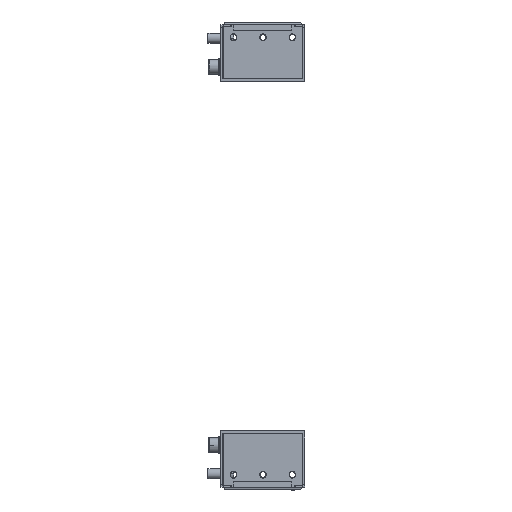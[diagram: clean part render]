
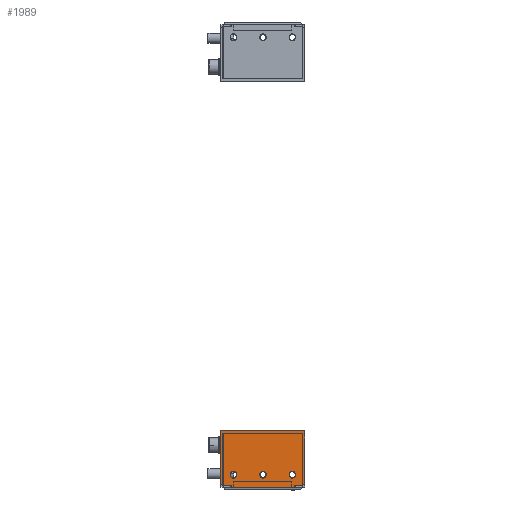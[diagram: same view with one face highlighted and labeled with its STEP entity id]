
A CAD part, left-side view. The second image highlights one B-rep face of the part: STEP entity #1989.
In plain terms, the highlighted planar face has unit normal (-1, 0, 0).
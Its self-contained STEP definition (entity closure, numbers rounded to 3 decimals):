
#292 = VERTEX_POINT('',#293);
#293 = CARTESIAN_POINT('',(-89.5,94.,-64.5));
#299 = EDGE_CURVE('',#292,#300,#302,.T.);
#300 = VERTEX_POINT('',#301);
#301 = CARTESIAN_POINT('',(-89.5,93.9,-64.5));
#302 = LINE('',#303,#304);
#303 = CARTESIAN_POINT('',(-89.5,93.,-64.5));
#304 = VECTOR('',#305,1.);
#305 = DIRECTION('',(0.,-1.,0.));
#324 = VERTEX_POINT('',#325);
#325 = CARTESIAN_POINT('',(-89.5,-0.9,-64.5));
#331 = EDGE_CURVE('',#332,#324,#334,.T.);
#332 = VERTEX_POINT('',#333);
#333 = CARTESIAN_POINT('',(-89.5,-1.,-64.5));
#334 = LINE('',#335,#336);
#335 = CARTESIAN_POINT('',(-89.5,93.,-64.5));
#336 = VECTOR('',#337,1.);
#337 = DIRECTION('',(0.,1.,0.));
#472 = VERTEX_POINT('',#473);
#473 = CARTESIAN_POINT('',(-89.5,-3.5,-67.));
#479 = EDGE_CURVE('',#480,#472,#482,.T.);
#480 = VERTEX_POINT('',#481);
#481 = CARTESIAN_POINT('',(-89.5,96.5,-67.));
#482 = LINE('',#483,#484);
#483 = CARTESIAN_POINT('',(-89.5,93.,-67.));
#484 = VECTOR('',#485,1.);
#485 = DIRECTION('',(-0.,-1.,-0.));
#1425 = VERTEX_POINT('',#1426);
#1426 = CARTESIAN_POINT('',(-89.5,94.,-3.5));
#1443 = VERTEX_POINT('',#1444);
#1444 = CARTESIAN_POINT('',(-89.5,96.5,-3.5));
#1450 = EDGE_CURVE('',#1425,#1443,#1451,.T.);
#1451 = LINE('',#1452,#1453);
#1452 = CARTESIAN_POINT('',(-89.5,94.,-3.5));
#1453 = VECTOR('',#1454,1.);
#1454 = DIRECTION('',(0.,1.,0.));
#1989 = ADVANCED_FACE('',(#1990,#2084,#2095,#2106),#2117,.T.);
#1990 = FACE_BOUND('',#1991,.T.);
#1991 = EDGE_LOOP('',(#1992,#1998,#1999,#2007,#2015,#2021,#2022,#2030,
    #2038,#2046,#2054,#2062,#2070,#2076,#2077,#2083));
#1992 = ORIENTED_EDGE('',*,*,#1993,.T.);
#1993 = EDGE_CURVE('',#1443,#480,#1994,.T.);
#1994 = LINE('',#1995,#1996);
#1995 = CARTESIAN_POINT('',(-89.5,96.5,0.));
#1996 = VECTOR('',#1997,1.);
#1997 = DIRECTION('',(0.,0.,-1.));
#1998 = ORIENTED_EDGE('',*,*,#479,.T.);
#1999 = ORIENTED_EDGE('',*,*,#2000,.T.);
#2000 = EDGE_CURVE('',#472,#2001,#2003,.T.);
#2001 = VERTEX_POINT('',#2002);
#2002 = CARTESIAN_POINT('',(-89.5,-3.5,-3.5));
#2003 = LINE('',#2004,#2005);
#2004 = CARTESIAN_POINT('',(-89.5,-3.5,-63.5));
#2005 = VECTOR('',#2006,1.);
#2006 = DIRECTION('',(0.,0.,1.));
#2007 = ORIENTED_EDGE('',*,*,#2008,.F.);
#2008 = EDGE_CURVE('',#2009,#2001,#2011,.T.);
#2009 = VERTEX_POINT('',#2010);
#2010 = CARTESIAN_POINT('',(-89.5,-1.,-3.5));
#2011 = LINE('',#2012,#2013);
#2012 = CARTESIAN_POINT('',(-89.5,-1.,-3.5));
#2013 = VECTOR('',#2014,1.);
#2014 = DIRECTION('',(0.,-1.,0.));
#2015 = ORIENTED_EDGE('',*,*,#2016,.T.);
#2016 = EDGE_CURVE('',#2009,#332,#2017,.T.);
#2017 = LINE('',#2018,#2019);
#2018 = CARTESIAN_POINT('',(-89.5,-1.,0.));
#2019 = VECTOR('',#2020,1.);
#2020 = DIRECTION('',(0.,0.,-1.));
#2021 = ORIENTED_EDGE('',*,*,#331,.T.);
#2022 = ORIENTED_EDGE('',*,*,#2023,.F.);
#2023 = EDGE_CURVE('',#2024,#324,#2026,.T.);
#2024 = VERTEX_POINT('',#2025);
#2025 = CARTESIAN_POINT('',(-89.5,-0.9,-2.6));
#2026 = LINE('',#2027,#2028);
#2027 = CARTESIAN_POINT('',(-89.5,-0.9,0.));
#2028 = VECTOR('',#2029,1.);
#2029 = DIRECTION('',(0.,0.,-1.));
#2030 = ORIENTED_EDGE('',*,*,#2031,.T.);
#2031 = EDGE_CURVE('',#2024,#2032,#2034,.T.);
#2032 = VERTEX_POINT('',#2033);
#2033 = CARTESIAN_POINT('',(-89.5,8.6,-2.6));
#2034 = LINE('',#2035,#2036);
#2035 = CARTESIAN_POINT('',(-89.5,-0.9,-2.6));
#2036 = VECTOR('',#2037,1.);
#2037 = DIRECTION('',(0.,1.,0.));
#2038 = ORIENTED_EDGE('',*,*,#2039,.T.);
#2039 = EDGE_CURVE('',#2032,#2040,#2042,.T.);
#2040 = VERTEX_POINT('',#2041);
#2041 = CARTESIAN_POINT('',(-89.5,8.6,0.));
#2042 = LINE('',#2043,#2044);
#2043 = CARTESIAN_POINT('',(-89.5,8.6,0.));
#2044 = VECTOR('',#2045,1.);
#2045 = DIRECTION('',(0.,0.,1.));
#2046 = ORIENTED_EDGE('',*,*,#2047,.F.);
#2047 = EDGE_CURVE('',#2048,#2040,#2050,.T.);
#2048 = VERTEX_POINT('',#2049);
#2049 = CARTESIAN_POINT('',(-89.5,84.4,0.));
#2050 = LINE('',#2051,#2052);
#2051 = CARTESIAN_POINT('',(-89.5,93.,0.));
#2052 = VECTOR('',#2053,1.);
#2053 = DIRECTION('',(0.,-1.,-0.));
#2054 = ORIENTED_EDGE('',*,*,#2055,.T.);
#2055 = EDGE_CURVE('',#2048,#2056,#2058,.T.);
#2056 = VERTEX_POINT('',#2057);
#2057 = CARTESIAN_POINT('',(-89.5,84.4,-2.6));
#2058 = LINE('',#2059,#2060);
#2059 = CARTESIAN_POINT('',(-89.5,84.4,0.));
#2060 = VECTOR('',#2061,1.);
#2061 = DIRECTION('',(0.,0.,-1.));
#2062 = ORIENTED_EDGE('',*,*,#2063,.T.);
#2063 = EDGE_CURVE('',#2056,#2064,#2066,.T.);
#2064 = VERTEX_POINT('',#2065);
#2065 = CARTESIAN_POINT('',(-89.5,93.9,-2.6));
#2066 = LINE('',#2067,#2068);
#2067 = CARTESIAN_POINT('',(-89.5,93.9,-2.6));
#2068 = VECTOR('',#2069,1.);
#2069 = DIRECTION('',(0.,1.,0.));
#2070 = ORIENTED_EDGE('',*,*,#2071,.F.);
#2071 = EDGE_CURVE('',#300,#2064,#2072,.T.);
#2072 = LINE('',#2073,#2074);
#2073 = CARTESIAN_POINT('',(-89.5,93.9,-63.5));
#2074 = VECTOR('',#2075,1.);
#2075 = DIRECTION('',(0.,0.,1.));
#2076 = ORIENTED_EDGE('',*,*,#299,.F.);
#2077 = ORIENTED_EDGE('',*,*,#2078,.T.);
#2078 = EDGE_CURVE('',#292,#1425,#2079,.T.);
#2079 = LINE('',#2080,#2081);
#2080 = CARTESIAN_POINT('',(-89.5,94.,-63.5));
#2081 = VECTOR('',#2082,1.);
#2082 = DIRECTION('',(0.,0.,1.));
#2083 = ORIENTED_EDGE('',*,*,#1450,.T.);
#2084 = FACE_BOUND('',#2085,.T.);
#2085 = EDGE_LOOP('',(#2086));
#2086 = ORIENTED_EDGE('',*,*,#2087,.F.);
#2087 = EDGE_CURVE('',#2088,#2088,#2090,.T.);
#2088 = VERTEX_POINT('',#2089);
#2089 = CARTESIAN_POINT('',(-89.5,11.5,-11.));
#2090 = CIRCLE('',#2091,4.);
#2091 = AXIS2_PLACEMENT_3D('',#2092,#2093,#2094);
#2092 = CARTESIAN_POINT('',(-89.5,11.5,-15.));
#2093 = DIRECTION('',(-1.,0.,0.));
#2094 = DIRECTION('',(0.,0.,1.));
#2095 = FACE_BOUND('',#2096,.T.);
#2096 = EDGE_LOOP('',(#2097));
#2097 = ORIENTED_EDGE('',*,*,#2098,.F.);
#2098 = EDGE_CURVE('',#2099,#2099,#2101,.T.);
#2099 = VERTEX_POINT('',#2100);
#2100 = CARTESIAN_POINT('',(-89.5,81.5,-11.));
#2101 = CIRCLE('',#2102,4.);
#2102 = AXIS2_PLACEMENT_3D('',#2103,#2104,#2105);
#2103 = CARTESIAN_POINT('',(-89.5,81.5,-15.));
#2104 = DIRECTION('',(-1.,0.,0.));
#2105 = DIRECTION('',(0.,0.,1.));
#2106 = FACE_BOUND('',#2107,.T.);
#2107 = EDGE_LOOP('',(#2108));
#2108 = ORIENTED_EDGE('',*,*,#2109,.F.);
#2109 = EDGE_CURVE('',#2110,#2110,#2112,.T.);
#2110 = VERTEX_POINT('',#2111);
#2111 = CARTESIAN_POINT('',(-89.5,46.5,-11.));
#2112 = CIRCLE('',#2113,4.);
#2113 = AXIS2_PLACEMENT_3D('',#2114,#2115,#2116);
#2114 = CARTESIAN_POINT('',(-89.5,46.5,-15.));
#2115 = DIRECTION('',(-1.,0.,0.));
#2116 = DIRECTION('',(0.,0.,1.));
#2117 = PLANE('',#2118);
#2118 = AXIS2_PLACEMENT_3D('',#2119,#2120,#2121);
#2119 = CARTESIAN_POINT('',(-89.5,0.,0.
    ));
#2120 = DIRECTION('',(-1.,0.,0.));
#2121 = DIRECTION('',(0.,0.,1.));
